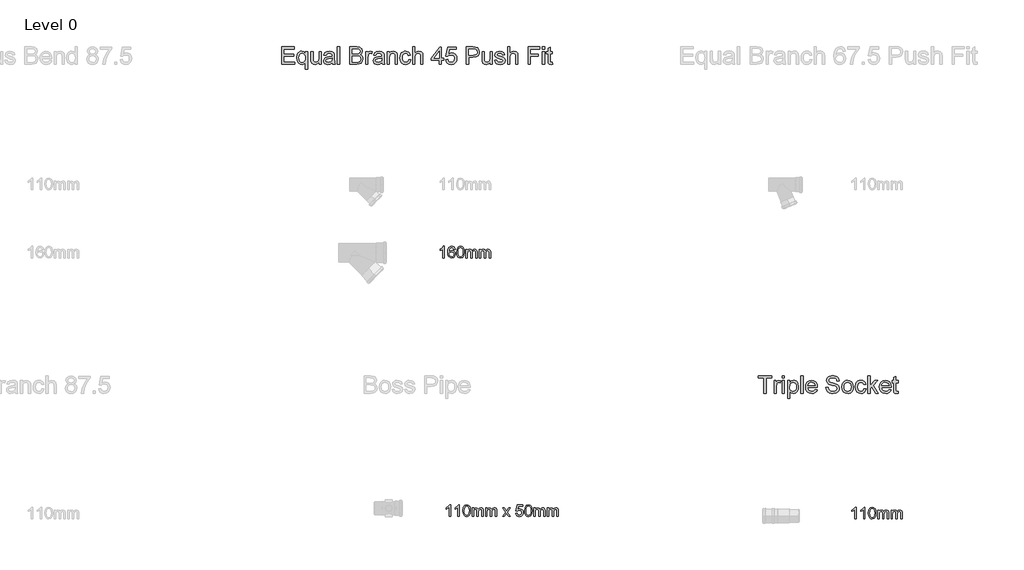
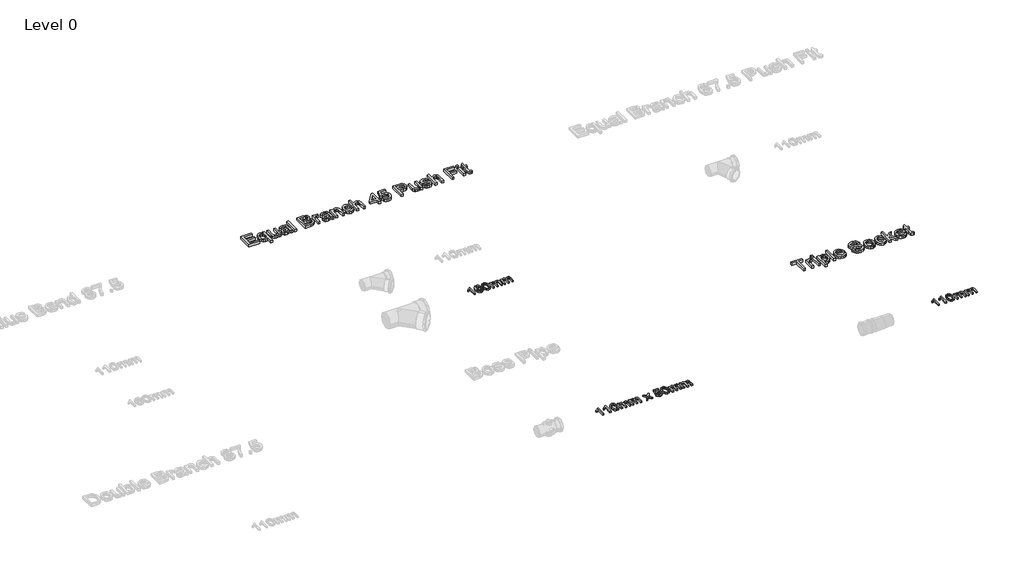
# One storey, part 14 of 15: 5 proxies.
"""IFC4 building model written with IfcOpenShell, lengths in millimetres."""

from ifc_helpers import new_model, si_unit, origin, origin_with_axes, place, context, project, spatial, polyline, outline, extrude, element, save

model = new_model("IFC4")

# Units and contexts
model_context = context("Model", 3, world=origin())
ifc_project = project(units=[si_unit("LENGTHUNIT", "METRE", prefix="MILLI")], contexts=[model_context])

# Site, building, storey
site = spatial("IfcSite", under=ifc_project)
building = spatial("IfcBuilding", under=site)
storey = spatial("IfcBuildingStorey", under=building, Name="Level 0", Elevation=0.0)

# Proxies
placement = place(None, origin())
element("IfcBuildingElementProxy", 1, Name="100mm Arial", ObjectType="100mm Arial", at=placement, inside=storey, context=model_context, shape_type="SweptSolid", body=[
    extrude(outline(polyline([(260.9629889, 5457.7167304), (248.6552966, 5457.7167304), (248.6552966, 5534.4474996), (236.9966428, 5526.1422111), (224.039912, 5519.9282688), (224.039912, 5531.5628842), (242.0807774, 5543.0773073), (253.0302966, 5556.1782688), (260.9629889, 5556.1782688), (260.9629889, 5457.7167304)])), origin_with_axes(), (0.0, 0.0, 1.0), 15.0),
    extrude(outline(polyline([(336.3476043, 5457.7167304), (324.039912, 5457.7167304), (324.039912, 5534.4474996), (312.3812582, 5526.1422111), (299.4245274, 5519.9282688), (299.4245274, 5531.5628842), (317.4653928, 5543.0773073), (328.414912, 5556.1782688), (336.3476043, 5556.1782688), (336.3476043, 5457.7167304)])), origin_with_axes(), (0.0, 0.0, 1.0), 15.0),
    extrude(outline(polyline([(365.5783736, 5506.1542304), (369.196162, 5534.4835573), (379.9413543, 5550.8176919), (397.8860659, 5556.1782688), (412.2610659, 5553.0051919), (422.1889505, 5543.8585573), (427.9581812, 5529.2912496), (430.1937582, 5506.1542304), (426.6120274, 5477.9450958), (415.9028928, 5461.5749035), (397.8860659, 5456.1782688), (385.0976043, 5458.5220188), (375.3860659, 5465.5532688), (368.0302966, 5482.2059131), (365.5783736, 5506.1542304)]), holes=[polyline([(377.8860659, 5506.1782688), (379.3283736, 5486.8182929), (383.6552966, 5475.613365), (390.0976043, 5470.2678121), (397.8860659, 5468.4859611), (405.6745274, 5470.2738217), (412.1168351, 5475.6374035), (416.4437582, 5486.848341), (417.8860659, 5506.1782688), (416.4918351, 5525.1025477), (412.3091428, 5536.394615), (405.8788543, 5542.0015861), (397.7418351, 5543.8705765), (390.0375082, 5542.2239419), (383.8476043, 5537.2840381), (379.3764505, 5525.2888458), (377.8860659, 5506.1782688)])]), origin_with_axes(), (0.0, 0.0, 1.0), 15.0),
    extrude(outline(polyline([(444.039912, 5457.7167304), (444.039912, 5530.0244227), (456.3476043, 5530.0244227), (456.3476043, 5518.1253842), (464.8091428, 5527.8729804), (476.852412, 5531.5628842), (489.1841428, 5527.800865), (495.9629889, 5517.2599996), (505.5663543, 5527.9871631), (517.6937582, 5531.5628842), (526.9455611, 5530.0755044), (533.7875082, 5525.613365), (538.0152726, 5518.0562736), (539.4245274, 5507.2840381), (539.4245274, 5457.7167304), (527.1168351, 5457.7167304), (527.1168351, 5501.9955765), (525.9750082, 5512.2720188), (521.8403928, 5517.332115), (514.8091428, 5519.2551919), (502.7057774, 5514.3273073), (497.8860659, 5498.5340381), (497.8860659, 5457.7167304), (485.5783736, 5457.7167304), (485.5783736, 5503.3657688), (482.7298159, 5515.2888458), (473.3908736, 5519.2551919), (464.2802966, 5516.6109611), (458.2226043, 5508.8705765), (456.3476043, 5494.1830765), (456.3476043, 5457.7167304), (444.039912, 5457.7167304)])), origin_with_axes(), (0.0, 0.0, 1.0), 15.0),
    extrude(outline(polyline([(557.8860659, 5457.7167304), (557.8860659, 5530.0244227), (570.1937582, 5530.0244227), (570.1937582, 5518.1253842), (578.6552966, 5527.8729804), (590.6985659, 5531.5628842), (603.0302966, 5527.800865), (609.8091428, 5517.2599996), (619.4125082, 5527.9871631), (631.539912, 5531.5628842), (640.7917149, 5530.0755044), (647.633662, 5525.613365), (651.8614264, 5518.0562736), (653.2706812, 5507.2840381), (653.2706812, 5457.7167304), (640.9629889, 5457.7167304), (640.9629889, 5501.9955765), (639.821162, 5512.2720188), (635.6865466, 5517.332115), (628.6552966, 5519.2551919), (616.5519312, 5514.3273073), (611.7322197, 5498.5340381), (611.7322197, 5457.7167304), (599.4245274, 5457.7167304), (599.4245274, 5503.3657688), (596.5759697, 5515.2888458), (587.2370274, 5519.2551919), (578.1264505, 5516.6109611), (572.0687582, 5508.8705765), (570.1937582, 5494.1830765), (570.1937582, 5457.7167304), (557.8860659, 5457.7167304)])), origin_with_axes(), (0.0, 0.0, 1.0), 15.0),
    extrude(outline(polyline([(702.5014505, 5457.7167304), (728.7995274, 5494.0628842), (704.039912, 5530.0244227), (718.8476043, 5530.0244227), (730.7947197, 5512.7167304), (736.3716428, 5504.5436535), (741.2033736, 5511.2263458), (754.8091428, 5530.0244227), (769.6168351, 5530.0244227), (743.6072197, 5494.0628842), (768.6552966, 5457.7167304), (753.8476043, 5457.7167304), (738.7754889, 5479.5676919), (736.0110659, 5483.5580765), (717.3091428, 5457.7167304), (702.5014505, 5457.7167304)])), origin_with_axes(), (0.0, 0.0, 1.0), 15.0),
    extrude(outline(polyline([(814.8091428, 5483.8705765), (827.1168351, 5485.4090381), (833.3187582, 5472.7287496), (846.1793351, 5468.4859611), (855.0014505, 5469.9613217), (861.6120274, 5474.3874035), (865.7406332, 5481.253389), (867.1168351, 5490.0484611), (861.9605851, 5504.6638458), (855.4852245, 5508.6842785), (846.3716428, 5510.0244227), (835.5663543, 5507.8849996), (828.6552966, 5502.332115), (816.3476043, 5503.8705765), (827.1168351, 5554.6398073), (874.8091428, 5554.6398073), (874.8091428, 5542.332115), (837.0687582, 5542.332115), (831.8043351, 5515.2167304), (840.5964024, 5520.5532688), (849.8091428, 5522.332115), (861.3085418, 5520.1265861), (870.8548159, 5513.5099996), (877.2820995, 5503.425865), (879.4245274, 5490.8176919), (877.4954409, 5478.5099996), (871.7081812, 5467.9811535), (860.6264505, 5459.12899), (846.1312582, 5456.1782688), (834.0429168, 5458.0743025), (824.4125082, 5463.7624035), (817.8109457, 5472.581514), (814.8091428, 5483.8705765)])), origin_with_axes(), (0.0, 0.0, 1.0), 15.0),
    extrude(outline(polyline([(890.1937582, 5506.1542304), (893.8115466, 5534.4835573), (904.5567389, 5550.8176919), (922.5014505, 5556.1782688), (936.8764505, 5553.0051919), (946.8043351, 5543.8585573), (952.5735659, 5529.2912496), (954.8091428, 5506.1542304), (951.227412, 5477.9450958), (940.5182774, 5461.5749035), (922.5014505, 5456.1782688), (909.7129889, 5458.5220188), (900.0014505, 5465.5532688), (892.6456812, 5482.2059131), (890.1937582, 5506.1542304)]), holes=[polyline([(902.5014505, 5506.1782688), (903.9437582, 5486.8182929), (908.2706812, 5475.613365), (914.7129889, 5470.2678121), (922.5014505, 5468.4859611), (930.289912, 5470.2738217), (936.7322197, 5475.6374035), (941.0591428, 5486.848341), (942.5014505, 5506.1782688), (941.1072197, 5525.1025477), (936.9245274, 5536.394615), (930.4942389, 5542.0015861), (922.3572197, 5543.8705765), (914.6528928, 5542.2239419), (908.4629889, 5537.2840381), (903.9918351, 5525.2888458), (902.5014505, 5506.1782688)])]), origin_with_axes(), (0.0, 0.0, 1.0), 15.0),
    extrude(outline(polyline([(968.6552966, 5457.7167304), (968.6552966, 5530.0244227), (980.9629889, 5530.0244227), (980.9629889, 5518.1253842), (989.4245274, 5527.8729804), (1001.4677966, 5531.5628842), (1013.7995274, 5527.800865), (1020.5783736, 5517.2599996), (1030.1817389, 5527.9871631), (1042.3091428, 5531.5628842), (1051.5609457, 5530.0755044), (1058.4028928, 5525.613365), (1062.6306572, 5518.0562736), (1064.039912, 5507.2840381), (1064.039912, 5457.7167304), (1051.7322197, 5457.7167304), (1051.7322197, 5501.9955765), (1050.5903928, 5512.2720188), (1046.4557774, 5517.332115), (1039.4245274, 5519.2551919), (1027.321162, 5514.3273073), (1022.5014505, 5498.5340381), (1022.5014505, 5457.7167304), (1010.1937582, 5457.7167304), (1010.1937582, 5503.3657688), (1007.3452005, 5515.2888458), (998.0062582, 5519.2551919), (988.8956812, 5516.6109611), (982.8379889, 5508.8705765), (980.9629889, 5494.1830765), (980.9629889, 5457.7167304), (968.6552966, 5457.7167304)])), origin_with_axes(), (0.0, 0.0, 1.0), 15.0),
    extrude(outline(polyline([(1082.5014505, 5457.7167304), (1082.5014505, 5530.0244227), (1094.8091428, 5530.0244227), (1094.8091428, 5518.1253842), (1103.2706812, 5527.8729804), (1115.3139505, 5531.5628842), (1127.6456812, 5527.800865), (1134.4245274, 5517.2599996), (1144.0278928, 5527.9871631), (1156.1552966, 5531.5628842), (1165.4070995, 5530.0755044), (1172.2490466, 5525.613365), (1176.4768111, 5518.0562736), (1177.8860659, 5507.2840381), (1177.8860659, 5457.7167304), (1165.5783736, 5457.7167304), (1165.5783736, 5501.9955765), (1164.4365466, 5512.2720188), (1160.3019312, 5517.332115), (1153.2706812, 5519.2551919), (1141.1673159, 5514.3273073), (1136.3476043, 5498.5340381), (1136.3476043, 5457.7167304), (1124.039912, 5457.7167304), (1124.039912, 5503.3657688), (1121.1913543, 5515.2888458), (1111.852412, 5519.2551919), (1102.7418351, 5516.6109611), (1096.6841428, 5508.8705765), (1094.8091428, 5494.1830765), (1094.8091428, 5457.7167304), (1082.5014505, 5457.7167304)])), origin_with_axes(), (0.0, 0.0, 1.0), 15.0),
])
element("IfcBuildingElementProxy", 2, Name="100mm Arial", ObjectType="100mm Arial", at=placement, inside=storey, context=model_context, shape_type="SweptSolid", body=[
    extrude(outline(polyline([(208.2706812, 7657.7167304), (195.9629889, 7657.7167304), (195.9629889, 7734.4474996), (184.3043351, 7726.1422111), (171.3476043, 7719.9282688), (171.3476043, 7731.5628842), (189.3884697, 7743.0773073), (200.3379889, 7756.1782688), (208.2706812, 7756.1782688), (208.2706812, 7657.7167304)])), origin_with_axes(), (0.0, 0.0, 1.0), 15.0),
    extrude(outline(polyline([(300.5783736, 7730.0244227), (288.2706812, 7728.4859611), (283.6072197, 7738.7503842), (271.2754889, 7743.8705765), (260.1697197, 7740.8898073), (251.7682774, 7729.6999035), (248.2706812, 7707.7648073), (259.1240466, 7717.5845188), (272.5735659, 7720.7936535), (283.9437582, 7718.6001438), (293.4870274, 7712.019615), (299.9593832, 7701.9655285), (302.1168351, 7689.3513458), (298.0543351, 7672.3681727), (286.8764505, 7660.3489419), (270.7466428, 7656.1782688), (256.7833014, 7658.9426919), (245.6625082, 7667.2359611), (238.3878687, 7681.8753842), (235.9629889, 7703.6782688), (238.6552966, 7728.19149), (246.7322197, 7744.9523073), (257.7598639, 7753.3717785), (272.0447197, 7756.1782688), (282.8439986, 7754.44149), (291.4918351, 7749.2311535), (297.5495274, 7740.9559131), (300.5783736, 7730.0244227)]), holes=[polyline([(248.2706812, 7689.5436535), (251.1192389, 7678.8825958), (258.6913543, 7671.1422111), (269.7851043, 7668.4859611), (277.9070995, 7669.8621631), (284.2923159, 7673.9907688), (288.4299361, 7680.4811535), (289.8091428, 7688.9426919), (288.4479649, 7697.0646871), (284.3644312, 7703.2575958), (269.2802966, 7708.4859611), (254.3884697, 7703.2575958), (249.8001284, 7697.2149275), (248.2706812, 7689.5436535)])]), origin_with_axes(), (0.0, 0.0, 1.0), 15.0),
    extrude(outline(polyline([(312.8860659, 7706.1542304), (316.5038543, 7734.4835573), (327.2490466, 7750.8176919), (345.1937582, 7756.1782688), (359.5687582, 7753.0051919), (369.4966428, 7743.8585573), (375.2658736, 7729.2912496), (377.5014505, 7706.1542304), (373.9197197, 7677.9450958), (363.2105851, 7661.5749035), (345.1937582, 7656.1782688), (332.4052966, 7658.5220188), (322.6937582, 7665.5532688), (315.3379889, 7682.2059131), (312.8860659, 7706.1542304)]), holes=[polyline([(325.1937582, 7706.1782688), (326.6360659, 7686.8182929), (330.9629889, 7675.613365), (337.4052966, 7670.2678121), (345.1937582, 7668.4859611), (352.9822197, 7670.2738217), (359.4245274, 7675.6374035), (363.7514505, 7686.848341), (365.1937582, 7706.1782688), (363.7995274, 7725.1025477), (359.6168351, 7736.394615), (353.1865466, 7742.0015861), (345.0495274, 7743.8705765), (337.3452005, 7742.2239419), (331.1552966, 7737.2840381), (326.6841428, 7725.2888458), (325.1937582, 7706.1782688)])]), origin_with_axes(), (0.0, 0.0, 1.0), 15.0),
    extrude(outline(polyline([(391.3476043, 7657.7167304), (391.3476043, 7730.0244227), (403.6552966, 7730.0244227), (403.6552966, 7718.1253842), (412.1168351, 7727.8729804), (424.1601043, 7731.5628842), (436.4918351, 7727.800865), (443.2706812, 7717.2599996), (452.8740466, 7727.9871631), (465.0014505, 7731.5628842), (474.2532534, 7730.0755044), (481.0952005, 7725.613365), (485.3229649, 7718.0562736), (486.7322197, 7707.2840381), (486.7322197, 7657.7167304), (474.4245274, 7657.7167304), (474.4245274, 7701.9955765), (473.2827005, 7712.2720188), (469.1480851, 7717.332115), (462.1168351, 7719.2551919), (450.0134697, 7714.3273073), (445.1937582, 7698.5340381), (445.1937582, 7657.7167304), (432.8860659, 7657.7167304), (432.8860659, 7703.3657688), (430.0375082, 7715.2888458), (420.6985659, 7719.2551919), (411.5879889, 7716.6109611), (405.5302966, 7708.8705765), (403.6552966, 7694.1830765), (403.6552966, 7657.7167304), (391.3476043, 7657.7167304)])), origin_with_axes(), (0.0, 0.0, 1.0), 15.0),
    extrude(outline(polyline([(505.1937582, 7657.7167304), (505.1937582, 7730.0244227), (517.5014505, 7730.0244227), (517.5014505, 7718.1253842), (525.9629889, 7727.8729804), (538.0062582, 7731.5628842), (550.3379889, 7727.800865), (557.1168351, 7717.2599996), (566.7202005, 7727.9871631), (578.8476043, 7731.5628842), (588.0994072, 7730.0755044), (594.9413543, 7725.613365), (599.1691187, 7718.0562736), (600.5783736, 7707.2840381), (600.5783736, 7657.7167304), (588.2706812, 7657.7167304), (588.2706812, 7701.9955765), (587.1288543, 7712.2720188), (582.9942389, 7717.332115), (575.9629889, 7719.2551919), (563.8596236, 7714.3273073), (559.039912, 7698.5340381), (559.039912, 7657.7167304), (546.7322197, 7657.7167304), (546.7322197, 7703.3657688), (543.883662, 7715.2888458), (534.5447197, 7719.2551919), (525.4341428, 7716.6109611), (519.3764505, 7708.8705765), (517.5014505, 7694.1830765), (517.5014505, 7657.7167304), (505.1937582, 7657.7167304)])), origin_with_axes(), (0.0, 0.0, 1.0), 15.0),
])
element("IfcBuildingElementProxy", 3, Name="100mm Arial", ObjectType="100mm Arial", at=placement, inside=storey, context=model_context, shape_type="SweptSolid", body=[
    extrude(outline(polyline([(3708.2706812, 5437.7167304), (3695.9629889, 5437.7167304), (3695.9629889, 5514.4474996), (3684.3043351, 5506.1422111), (3671.3476043, 5499.9282688), (3671.3476043, 5511.5628842), (3689.3884697, 5523.0773073), (3700.3379889, 5536.1782688), (3708.2706812, 5536.1782688), (3708.2706812, 5437.7167304)])), origin_with_axes(), (0.0, 0.0, 1.0), 15.0),
    extrude(outline(polyline([(3783.6552966, 5437.7167304), (3771.3476043, 5437.7167304), (3771.3476043, 5514.4474996), (3759.6889505, 5506.1422111), (3746.7322197, 5499.9282688), (3746.7322197, 5511.5628842), (3764.7730851, 5523.0773073), (3775.7226043, 5536.1782688), (3783.6552966, 5536.1782688), (3783.6552966, 5437.7167304)])), origin_with_axes(), (0.0, 0.0, 1.0), 15.0),
    extrude(outline(polyline([(3812.8860659, 5486.1542304), (3816.5038543, 5514.4835573), (3827.2490466, 5530.8176919), (3845.1937582, 5536.1782688), (3859.5687582, 5533.0051919), (3869.4966428, 5523.8585573), (3875.2658736, 5509.2912496), (3877.5014505, 5486.1542304), (3873.9197197, 5457.9450958), (3863.2105851, 5441.5749035), (3845.1937582, 5436.1782688), (3832.4052966, 5438.5220188), (3822.6937582, 5445.5532688), (3815.3379889, 5462.2059131), (3812.8860659, 5486.1542304)]), holes=[polyline([(3825.1937582, 5486.1782688), (3826.6360659, 5466.8182929), (3830.9629889, 5455.613365), (3837.4052966, 5450.2678121), (3845.1937582, 5448.4859611), (3852.9822197, 5450.2738217), (3859.4245274, 5455.6374035), (3863.7514505, 5466.848341), (3865.1937582, 5486.1782688), (3863.7995274, 5505.1025477), (3859.6168351, 5516.394615), (3853.1865466, 5522.0015861), (3845.0495274, 5523.8705765), (3837.3452005, 5522.2239419), (3831.1552966, 5517.2840381), (3826.6841428, 5505.2888458), (3825.1937582, 5486.1782688)])]), origin_with_axes(), (0.0, 0.0, 1.0), 15.0),
    extrude(outline(polyline([(3891.3476043, 5437.7167304), (3891.3476043, 5510.0244227), (3903.6552966, 5510.0244227), (3903.6552966, 5498.1253842), (3912.1168351, 5507.8729804), (3924.1601043, 5511.5628842), (3936.4918351, 5507.800865), (3943.2706812, 5497.2599996), (3952.8740466, 5507.9871631), (3965.0014505, 5511.5628842), (3974.2532534, 5510.0755044), (3981.0952005, 5505.613365), (3985.3229649, 5498.0562736), (3986.7322197, 5487.2840381), (3986.7322197, 5437.7167304), (3974.4245274, 5437.7167304), (3974.4245274, 5481.9955765), (3973.2827005, 5492.2720188), (3969.1480851, 5497.332115), (3962.1168351, 5499.2551919), (3950.0134697, 5494.3273073), (3945.1937582, 5478.5340381), (3945.1937582, 5437.7167304), (3932.8860659, 5437.7167304), (3932.8860659, 5483.3657688), (3930.0375082, 5495.2888458), (3920.6985659, 5499.2551919), (3911.5879889, 5496.6109611), (3905.5302966, 5488.8705765), (3903.6552966, 5474.1830765), (3903.6552966, 5437.7167304), (3891.3476043, 5437.7167304)])), origin_with_axes(), (0.0, 0.0, 1.0), 15.0),
    extrude(outline(polyline([(4005.1937582, 5437.7167304), (4005.1937582, 5510.0244227), (4017.5014505, 5510.0244227), (4017.5014505, 5498.1253842), (4025.9629889, 5507.8729804), (4038.0062582, 5511.5628842), (4050.3379889, 5507.800865), (4057.1168351, 5497.2599996), (4066.7202005, 5507.9871631), (4078.8476043, 5511.5628842), (4088.0994072, 5510.0755044), (4094.9413543, 5505.613365), (4099.1691187, 5498.0562736), (4100.5783736, 5487.2840381), (4100.5783736, 5437.7167304), (4088.2706812, 5437.7167304), (4088.2706812, 5481.9955765), (4087.1288543, 5492.2720188), (4082.9942389, 5497.332115), (4075.9629889, 5499.2551919), (4063.8596236, 5494.3273073), (4059.039912, 5478.5340381), (4059.039912, 5437.7167304), (4046.7322197, 5437.7167304), (4046.7322197, 5483.3657688), (4043.883662, 5495.2888458), (4034.5447197, 5499.2551919), (4025.4341428, 5496.6109611), (4019.3764505, 5488.8705765), (4017.5014505, 5474.1830765), (4017.5014505, 5437.7167304), (4005.1937582, 5437.7167304)])), origin_with_axes(), (0.0, 0.0, 1.0), 15.0),
])
element("IfcBuildingElementProxy", 4, Name="150mm Arial", ObjectType="150mm Arial", at=placement, inside=storey, context=model_context, shape_type="SweptSolid", body=[
    extrude(outline(polyline([(-1173.6818358, 9305.2145219), (-1173.6818358, 9452.9068296), (-1067.5279897, 9452.9068296), (-1067.5279897, 9434.4452911), (-1155.2202973, 9434.4452911), (-1155.2202973, 9390.5991373), (-1072.1433743, 9390.5991373), (-1072.1433743, 9372.1375988), (-1155.2202973, 9372.1375988), (-1155.2202973, 9323.6760604), (-1065.2202973, 9323.6760604), (-1065.2202973, 9305.2145219), (-1173.6818358, 9305.2145219)])), origin_with_axes(), (0.0, 0.0, 1.0), 25.0),
    extrude(outline(polyline([(-972.912605, 9263.6760604), (-972.912605, 9319.9981758), (-984.631355, 9307.7746181), (-1000.6409704, 9302.9068296), (-1018.1920522, 9306.7514811), (-1033.1289512, 9318.2854354), (-1043.351307, 9336.5171061), (-1046.7587589, 9360.4549065), (-1041.350105, 9389.697695), (-1034.7245041, 9401.0738969), (-1025.6650089, 9409.3130796), (-1014.8927733, 9414.3160844), (-1003.1289512, 9415.9837527), (-985.9654897, 9410.8094738), (-972.912605, 9395.2866373), (-972.912605, 9413.6760604), (-954.4510666, 9413.6760604), (-954.4510666, 9263.6760604), (-972.912605, 9263.6760604)]), holes=[polyline([(-1028.2972204, 9359.4452911), (-1026.2193959, 9342.7866373), (-1019.9859223, 9330.8875988), (-1010.8498046, 9323.7481758), (-1000.0640473, 9321.3683681), (-989.7290113, 9323.6309883), (-980.9354416, 9330.4188488), (-974.9183142, 9341.8311085), (-972.912605, 9357.9669258), (-975.0264872, 9375.2160243), (-981.3681339, 9387.58832), (-990.5583382, 9395.0387407), (-1001.2178935, 9397.5222142), (-1011.6791315, 9395.2100147), (-1020.4186147, 9388.2734161), (-1026.327569, 9376.4419859), (-1028.2972204, 9359.4452911)])]), origin_with_axes(), (0.0, 0.0, 1.0), 25.0),
    extrude(outline(polyline([(-857.5279897, 9305.2145219), (-857.5279897, 9323.8563488), (-871.9871243, 9308.1442094), (-890.8452973, 9302.9068296), (-908.2070762, 9306.5847142), (-920.17823, 9315.8154835), (-925.6770281, 9329.4092335), (-926.7587589, 9346.572695), (-926.7587589, 9413.6760604), (-908.2972204, 9413.6760604), (-908.2972204, 9355.2625988), (-907.179432, 9336.4404835), (-899.8777493, 9325.3888008), (-886.1217397, 9321.3683681), (-870.7070762, 9325.478945), (-860.5207781, 9336.6748585), (-857.5279897, 9357.2457719), (-857.5279897, 9413.6760604), (-839.0664512, 9413.6760604), (-839.0664512, 9305.2145219), (-857.5279897, 9305.2145219)])), origin_with_axes(), (0.0, 0.0, 1.0), 25.0),
    extrude(outline(polyline([(-744.4510666, 9319.0606758), (-762.3537108, 9306.5486565), (-782.131355, 9302.9068296), (-797.5595401, 9305.0973344), (-808.9402493, 9311.6688488), (-815.9579776, 9321.6478152), (-818.2972204, 9334.0606758), (-814.7635666, 9348.6640411), (-805.4787108, 9359.2650027), (-792.5520281, 9365.322695), (-776.5784704, 9368.0991373), (-744.5592397, 9374.4452911), (-744.4510666, 9378.5558681), (-745.7221002, 9386.7950508), (-749.5352012, 9392.1856758), (-758.0628454, 9396.1880796), (-769.943855, 9397.5222142), (-788.6217397, 9393.9705315), (-797.5279897, 9381.3683681), (-815.9895281, 9383.6760604), (-808.0027493, 9401.7049065), (-791.9210185, 9412.2698104), (-767.5640473, 9415.9837527), (-745.1902493, 9412.7025027), (-732.5520281, 9404.46332), (-726.8909704, 9391.9332719), (-725.9895281, 9375.7794258), (-725.9895281, 9352.8106758), (-725.0520281, 9320.7373585), (-721.3741435, 9305.2145219), (-739.835682, 9305.2145219), (-744.4510666, 9319.0606758)]), holes=[polyline([(-744.4510666, 9355.9837527), (-774.2347204, 9350.322695), (-790.1181339, 9347.3299065), (-797.3116435, 9342.4621181), (-799.835682, 9335.3587527), (-794.3368839, 9325.3707719), (-778.2010666, 9321.3683681), (-759.523182, 9325.7854354), (-747.4799127, 9336.4765411), (-744.5592397, 9350.7553873), (-744.4510666, 9355.9837527)])]), origin_with_axes(), (0.0, 0.0, 1.0), 25.0),
    extrude(outline(polyline([(-700.6049127, 9305.2145219), (-700.6049127, 9452.9068296), (-682.1433743, 9452.9068296), (-682.1433743, 9305.2145219), (-700.6049127, 9305.2145219)])), origin_with_axes(), (0.0, 0.0, 1.0), 25.0),
    extrude(outline(polyline([(-594.4510666, 9305.2145219), (-594.4510666, 9452.9068296), (-538.0928935, 9452.9068296), (-510.49073, 9448.5618777), (-501.2148887, 9443.049558), (-494.1926531, 9435.2025027), (-488.2972204, 9416.3082719), (-493.2551531, 9399.0546661), (-508.2371243, 9385.9837527), (-497.7758863, 9380.5210123), (-490.0460185, 9372.2097142), (-485.2728815, 9361.5997383), (-483.6818358, 9349.2409642), (-488.0267877, 9329.3912046), (-498.7900089, 9315.2565892), (-514.8537108, 9307.7565892), (-538.5255858, 9305.2145219), (-594.4510666, 9305.2145219)]), holes=[polyline([(-575.9895281, 9323.6760604), (-538.1289512, 9323.6760604), (-524.4270281, 9324.3972142), (-512.83448, 9328.4176469), (-505.1541916, 9336.6207719), (-502.1433743, 9349.0606758), (-505.6770281, 9363.4116373), (-517.1253454, 9371.9753392), (-539.9318358, 9374.4452911), (-575.9895281, 9374.4452911), (-575.9895281, 9323.6760604)]), polyline([(-575.9895281, 9392.9068296), (-542.2755858, 9392.9068296), (-522.5880858, 9394.4933681), (-510.7431339, 9401.3263008), (-506.7587589, 9413.3515411), (-510.4727012, 9425.3948104), (-521.1097204, 9432.5162046), (-544.835682, 9434.4452911), (-575.9895281, 9434.4452911), (-575.9895281, 9392.9068296)])]), origin_with_axes(), (0.0, 0.0, 1.0), 25.0),
    extrude(outline(polyline([(-460.6049127, 9305.2145219), (-460.6049127, 9413.6760604), (-444.4510666, 9413.6760604), (-444.4510666, 9397.6303873), (-432.9847204, 9412.4140411), (-421.4462589, 9415.9837527), (-402.912605, 9410.2866373), (-409.0784704, 9393.7361565), (-422.0592397, 9397.5222142), (-432.4979416, 9393.8803873), (-439.1505858, 9383.7842335), (-442.1433743, 9362.2217335), (-442.1433743, 9305.2145219), (-460.6049127, 9305.2145219)])), origin_with_axes(), (0.0, 0.0, 1.0), 25.0),
    extrude(outline(polyline([(-322.1433743, 9319.0606758), (-340.0460185, 9306.5486565), (-359.8236627, 9302.9068296), (-375.2518478, 9305.0973344), (-386.632557, 9311.6688488), (-393.6502853, 9321.6478152), (-395.9895281, 9334.0606758), (-392.4558743, 9348.6640411), (-383.1710185, 9359.2650027), (-370.2443358, 9365.322695), (-354.2707781, 9368.0991373), (-322.2515473, 9374.4452911), (-322.1433743, 9378.5558681), (-323.4144079, 9386.7950508), (-327.2275089, 9392.1856758), (-335.7551531, 9396.1880796), (-347.6361627, 9397.5222142), (-366.3140473, 9393.9705315), (-375.2202973, 9381.3683681), (-393.6818358, 9383.6760604), (-385.695057, 9401.7049065), (-369.6133262, 9412.2698104), (-345.256355, 9415.9837527), (-322.882557, 9412.7025027), (-310.2443358, 9404.46332), (-304.5832781, 9391.9332719), (-303.6818358, 9375.7794258), (-303.6818358, 9352.8106758), (-302.7443358, 9320.7373585), (-299.0664512, 9305.2145219), (-317.5279897, 9305.2145219), (-322.1433743, 9319.0606758)]), holes=[polyline([(-322.1433743, 9355.9837527), (-351.9270281, 9350.322695), (-367.8104416, 9347.3299065), (-375.0039512, 9342.4621181), (-377.5279897, 9335.3587527), (-372.0291916, 9325.3707719), (-355.8933743, 9321.3683681), (-337.2154897, 9325.7854354), (-325.1722204, 9336.4765411), (-322.2515473, 9350.7553873), (-322.1433743, 9355.9837527)])]), origin_with_axes(), (0.0, 0.0, 1.0), 25.0),
    extrude(outline(polyline([(-278.2972204, 9305.2145219), (-278.2972204, 9413.6760604), (-259.835682, 9413.6760604), (-259.835682, 9398.5318296), (-245.7190954, 9411.6207719), (-226.4462589, 9415.9837527), (-209.0123647, 9412.4681277), (-197.1133262, 9403.2373585), (-191.5784704, 9389.6616373), (-190.6049127, 9371.8130796), (-190.6049127, 9305.2145219), (-209.0664512, 9305.2145219), (-209.0664512, 9369.3250988), (-211.193855, 9385.6592335), (-218.7118839, 9394.2950508), (-231.3861627, 9397.5222142), (-242.1989632, 9395.7103152), (-251.4162108, 9390.2746181), (-257.7308142, 9379.7728152), (-259.835682, 9362.7625988), (-259.835682, 9305.2145219), (-278.2972204, 9305.2145219)])), origin_with_axes(), (0.0, 0.0, 1.0), 25.0),
    extrude(outline(polyline([(-95.9895281, 9344.4452911), (-77.5279897, 9342.1375988), (-82.6752252, 9325.7178272), (-92.3477012, 9313.3094738), (-105.6349608, 9305.5074907), (-121.6265473, 9302.9068296), (-141.264468, 9306.5351349), (-156.6205377, 9317.4200508), (-166.5318959, 9335.0838128), (-169.835682, 9359.0486565), (-164.1926531, 9389.7157238), (-157.0712589, 9401.2136205), (-146.9931339, 9409.4212527), (-134.936343, 9414.3431277), (-121.8789512, 9415.9837527), (-106.2794921, 9413.7301469), (-93.8080377, 9406.9693296), (-84.8612228, 9396.0618777), (-79.835682, 9381.3683681), (-98.2972204, 9379.0606758), (-106.8609223, 9392.8888008), (-121.7347204, 9397.5222142), (-133.6653094, 9395.2415652), (-143.1349608, 9388.3996181), (-149.3143478, 9376.6267815), (-151.3741435, 9359.5534642), (-149.3594199, 9342.2502791), (-143.3152493, 9330.4368777), (-134.0168719, 9323.6354955), (-122.2395281, 9321.3683681), (-112.6797324, 9322.7836325), (-104.8416916, 9327.0294258), (-99.140069, 9334.213921), (-95.9895281, 9344.4452911)])), origin_with_axes(), (0.0, 0.0, 1.0), 25.0),
    extrude(outline(polyline([(-61.3741435, 9305.2145219), (-61.3741435, 9452.9068296), (-42.912605, 9452.9068296), (-42.912605, 9398.603945), (-28.5165714, 9411.6388008), (-10.7852012, 9415.9837527), (9.9479719, 9411.2421661), (22.5321065, 9398.135195), (26.3181642, 9373.8683681), (26.3181642, 9305.2145219), (7.8566257, 9305.2145219), (7.8566257, 9371.9573104), (6.3872748, 9383.5138008), (1.9792219, 9391.4284642), (-5.1241435, 9395.9987767), (-14.679432, 9397.5222142), (-29.8056339, 9393.4116373), (-39.9017877, 9382.2698104), (-42.912605, 9362.8347142), (-42.912605, 9305.2145219), (-61.3741435, 9305.2145219)])), origin_with_axes(), (0.0, 0.0, 1.0), 25.0),
    extrude(outline(polyline([(164.7797027, 9305.2145219), (164.7797027, 9339.8299065), (97.8566257, 9339.8299065), (97.8566257, 9358.291445), (169.3950873, 9450.5991373), (183.2412411, 9450.5991373), (183.2412411, 9358.291445), (201.7027796, 9358.291445), (201.7027796, 9339.8299065), (183.2412411, 9339.8299065), (183.2412411, 9305.2145219), (164.7797027, 9305.2145219)]), holes=[polyline([(164.7797027, 9358.291445), (164.7797027, 9415.3347142), (120.5729719, 9358.291445), (164.7797027, 9358.291445)])]), origin_with_axes(), (0.0, 0.0, 1.0), 25.0),
    extrude(outline(polyline([(217.8566257, 9344.4452911), (236.3181642, 9346.7529835), (239.7075873, 9335.6697503), (245.6210488, 9327.7325508), (254.0315055, 9322.9594137), (264.9119142, 9321.3683681), (278.1450873, 9323.5814089), (288.0609527, 9330.2205315), (294.2538613, 9340.5195099), (296.3181642, 9353.7121181), (294.3845704, 9366.1339931), (288.5837892, 9375.635195), (278.8707483, 9381.665844), (265.2003757, 9383.6760604), (248.992443, 9380.4669258), (238.6258565, 9372.1375988), (220.164318, 9374.4452911), (236.3181642, 9450.5991373), (307.8566257, 9450.5991373), (307.8566257, 9432.1375988), (251.2460488, 9432.1375988), (243.3494142, 9391.4645219), (256.5375152, 9399.4693296), (270.3566257, 9402.1375988), (287.6057243, 9398.8293056), (301.9251353, 9388.9044258), (311.5660608, 9373.7782238), (314.7797027, 9354.8659642), (311.8860728, 9336.4044258), (303.2051834, 9320.6111565), (286.5825873, 9307.3329113), (264.8397988, 9302.9068296), (246.7072868, 9305.7508801), (232.2616738, 9314.2830315), (222.3593301, 9327.5116974), (217.8566257, 9344.4452911)])), origin_with_axes(), (0.0, 0.0, 1.0), 25.0),
    extrude(outline(polyline([(395.5489334, 9305.2145219), (395.5489334, 9452.9068296), (450.2845103, 9452.9068296), (472.351818, 9451.5005796), (490.29052, 9444.5955315), (501.9191257, 9430.3166854), (506.3181642, 9410.1784642), (503.3479118, 9392.7716133), (494.4371546, 9378.2674065), (477.7739935, 9368.4777431), (451.5465296, 9365.2145219), (414.0104719, 9365.2145219), (414.0104719, 9305.2145219), (395.5489334, 9305.2145219)]), holes=[polyline([(414.0104719, 9383.6760604), (452.6282603, 9383.6760604), (468.9984527, 9385.3707719), (479.8157603, 9390.4549065), (485.8464094, 9398.6129594), (487.8566257, 9409.5294258), (483.1150392, 9424.8178873), (470.6571065, 9433.1832719), (452.195568, 9434.4452911), (414.0104719, 9434.4452911), (414.0104719, 9383.6760604)])]), origin_with_axes(), (0.0, 0.0, 1.0), 25.0),
    extrude(outline(polyline([(598.6258565, 9305.2145219), (598.6258565, 9323.8563488), (584.1667219, 9308.1442094), (565.3085488, 9302.9068296), (547.94677, 9306.5847142), (535.9756161, 9315.8154835), (530.476818, 9329.4092335), (529.3950873, 9346.572695), (529.3950873, 9413.6760604), (547.8566257, 9413.6760604), (547.8566257, 9355.2625988), (548.9744142, 9336.4404835), (556.2760969, 9325.3888008), (570.0321065, 9321.3683681), (585.44677, 9325.478945), (595.633068, 9336.6748585), (598.6258565, 9357.2457719), (598.6258565, 9413.6760604), (617.087395, 9413.6760604), (617.087395, 9305.2145219), (598.6258565, 9305.2145219)])), origin_with_axes(), (0.0, 0.0, 1.0), 25.0),
    extrude(outline(polyline([(635.5489334, 9337.5222142), (654.0104719, 9339.8299065), (656.9221305, 9331.9332719), (662.556145, 9326.1279835), (682.1354719, 9321.3683681), (700.9575873, 9325.7313488), (707.087395, 9335.9717335), (700.9215296, 9344.2650027), (681.9191257, 9349.5294258), (654.118645, 9358.5618777), (641.9852315, 9369.1087527), (637.8566257, 9384.0005796), (641.1739334, 9397.7565892), (650.2244142, 9408.2674065), (661.961193, 9413.7301469), (677.8446065, 9415.9837527), (700.3085488, 9412.3599546), (714.587395, 9402.5522623), (720.9335488, 9385.9837527), (702.4720103, 9383.6760604), (695.5309046, 9393.8623585), (679.2869142, 9397.5222142), (661.618645, 9394.0246181), (656.3181642, 9385.8755796), (658.5176834, 9380.5029835), (665.4047027, 9376.4284642), (681.306145, 9372.4981758), (708.4035007, 9363.8082719), (720.9876353, 9353.9645219), (725.5489334, 9337.9188488), (720.1943661, 9320.2505796), (704.743645, 9307.43207), (681.883068, 9302.9068296), (663.2682844, 9305.08832), (649.6835488, 9311.6327911), (640.6150392, 9322.4681277), (635.5489334, 9337.5222142)])), origin_with_axes(), (0.0, 0.0, 1.0), 25.0),
    extrude(outline(polyline([(746.3181642, 9305.2145219), (746.3181642, 9452.9068296), (764.7797027, 9452.9068296), (764.7797027, 9398.603945), (779.1757363, 9411.6388008), (796.9071065, 9415.9837527), (817.6402796, 9411.2421661), (830.2244142, 9398.135195), (834.0104719, 9373.8683681), (834.0104719, 9305.2145219), (815.5489334, 9305.2145219), (815.5489334, 9371.9573104), (814.0795825, 9383.5138008), (809.6715296, 9391.4284642), (802.5681642, 9395.9987767), (793.0128757, 9397.5222142), (777.8866738, 9393.4116373), (767.79052, 9382.2698104), (764.7797027, 9362.8347142), (764.7797027, 9305.2145219), (746.3181642, 9305.2145219)])), origin_with_axes(), (0.0, 0.0, 1.0), 25.0),
    extrude(outline(polyline([(919.3950873, 9305.2145219), (919.3950873, 9452.9068296), (1018.6258565, 9452.9068296), (1018.6258565, 9434.4452911), (937.8566257, 9434.4452911), (937.8566257, 9390.5991373), (1007.087395, 9390.5991373), (1007.087395, 9372.1375988), (937.8566257, 9372.1375988), (937.8566257, 9305.2145219), (919.3950873, 9305.2145219)])), origin_with_axes(), (0.0, 0.0, 1.0), 25.0),
    extrude(outline(polyline([(1041.7027796, 9434.4452911), (1041.7027796, 9452.9068296), (1060.164318, 9452.9068296), (1060.164318, 9434.4452911), (1041.7027796, 9434.4452911)])), origin_with_axes(), (0.0, 0.0, 1.0), 25.0),
    extrude(outline(polyline([(1041.7027796, 9305.2145219), (1041.7027796, 9413.6760604), (1060.164318, 9413.6760604), (1060.164318, 9305.2145219), (1041.7027796, 9305.2145219)])), origin_with_axes(), (0.0, 0.0, 1.0), 25.0),
    extrude(outline(polyline([(1127.087395, 9320.6111565), (1129.3950873, 9304.6736565), (1115.5849911, 9302.9068296), (1100.1162411, 9305.9717335), (1092.399895, 9314.0125988), (1090.164318, 9334.9621181), (1090.164318, 9395.2145219), (1076.3181642, 9395.2145219), (1076.3181642, 9413.6760604), (1090.164318, 9413.6760604), (1090.164318, 9440.0342335), (1108.6258565, 9450.8875988), (1108.6258565, 9413.6760604), (1127.087395, 9413.6760604), (1127.087395, 9395.2145219), (1108.6258565, 9395.2145219), (1108.6258565, 9335.5029835), (1109.5994142, 9325.9837527), (1112.7544623, 9322.6123585), (1119.0465296, 9321.3683681), (1127.087395, 9320.6111565)])), origin_with_axes(), (0.0, 0.0, 1.0), 25.0),
])
element("IfcBuildingElementProxy", 5, Name="150mm Arial", ObjectType="150mm Arial", at=placement, inside=storey, context=model_context, shape_type="SweptSolid", body=[
    extrude(outline(polyline([(2925.164318, 6505.2145219), (2925.164318, 6634.4452911), (2876.7027796, 6634.4452911), (2876.7027796, 6652.9068296), (2992.087395, 6652.9068296), (2992.087395, 6634.4452911), (2943.6258565, 6634.4452911), (2943.6258565, 6505.2145219), (2925.164318, 6505.2145219)])), origin_with_axes(), (0.0, 0.0, 1.0), 25.0),
    extrude(outline(polyline([(3010.5489334, 6505.2145219), (3010.5489334, 6613.6760604), (3026.7027796, 6613.6760604), (3026.7027796, 6597.6303873), (3038.1691257, 6612.4140411), (3049.7075873, 6615.9837527), (3068.2412411, 6610.2866373), (3062.0753757, 6593.7361565), (3049.0946065, 6597.5222142), (3038.6559046, 6593.8803873), (3032.0032603, 6583.7842335), (3029.0104719, 6562.2217335), (3029.0104719, 6505.2145219), (3010.5489334, 6505.2145219)])), origin_with_axes(), (0.0, 0.0, 1.0), 25.0),
    extrude(outline(polyline([(3079.7797027, 6505.2145219), (3079.7797027, 6613.6760604), (3098.2412411, 6613.6760604), (3098.2412411, 6505.2145219), (3079.7797027, 6505.2145219)])), origin_with_axes(), (0.0, 0.0, 1.0), 25.0),
    extrude(outline(polyline([(3079.7797027, 6634.4452911), (3079.7797027, 6652.9068296), (3098.2412411, 6652.9068296), (3098.2412411, 6634.4452911), (3079.7797027, 6634.4452911)])), origin_with_axes(), (0.0, 0.0, 1.0), 25.0),
    extrude(outline(polyline([(3125.9335488, 6463.6760604), (3125.9335488, 6613.6760604), (3144.3950873, 6613.6760604), (3144.3950873, 6595.5750988), (3157.1595103, 6610.8815892), (3174.3950873, 6615.9837527), (3186.8800632, 6614.1988969), (3197.7965296, 6608.8443296), (3206.6847507, 6600.24457), (3213.0849911, 6588.7241373), (3218.2412411, 6560.2746181), (3216.7854118, 6544.4858561), (3212.4179238, 6530.3647623), (3205.2785007, 6518.6279835), (3195.5068661, 6509.9921661), (3184.126157, 6504.6781637), (3172.1595103, 6502.9068296), (3156.0958084, 6507.6484161), (3144.3950873, 6519.6375988), (3144.3950873, 6463.6760604), (3125.9335488, 6463.6760604)]), holes=[polyline([(3144.3950873, 6558.5799065), (3146.391782, 6542.0294258), (3152.3818661, 6530.4549065), (3161.2205079, 6523.6400027), (3171.7628757, 6521.3683681), (3182.4765176, 6523.7211325), (3191.54052, 6530.7794258), (3197.719907, 6542.7776229), (3199.7797027, 6559.9500988), (3197.7694863, 6576.4104354), (3191.7388373, 6588.1472142), (3182.9137171, 6595.1784642), (3172.5200873, 6597.5222142), (3162.0858926, 6595.0297262), (3152.9227315, 6587.5522623), (3146.5269983, 6575.3241974), (3144.3950873, 6558.5799065)])]), origin_with_axes(), (0.0, 0.0, 1.0), 25.0),
    extrude(outline(polyline([(3239.0104719, 6505.2145219), (3239.0104719, 6652.9068296), (3257.4720103, 6652.9068296), (3257.4720103, 6505.2145219), (3239.0104719, 6505.2145219)])), origin_with_axes(), (0.0, 0.0, 1.0), 25.0),
    extrude(outline(polyline([(3361.101818, 6537.5222142), (3379.2027796, 6535.2145219), (3372.6808445, 6521.5756998), (3362.273693, 6511.3803873), (3348.2157003, 6505.025219), (3330.7412411, 6502.9068296), (3309.0795825, 6506.5621782), (3292.4119142, 6517.5282238), (3281.7839094, 6535.0928272), (3278.2412411, 6558.5438488), (3281.8199671, 6582.7836325), (3292.556145, 6600.9116373), (3308.9984527, 6612.2157238), (3329.695568, 6615.9837527), (3349.7481522, 6612.2247383), (3365.7712892, 6600.947695), (3376.2775993, 6582.8557479), (3379.7797027, 6558.6520219), (3379.6715296, 6553.6760604), (3296.7027796, 6553.6760604), (3299.8983926, 6539.8569498), (3307.32177, 6529.697695), (3318.0354118, 6523.4506998), (3331.101818, 6521.3683681), (3349.2027796, 6525.2265411), (3361.101818, 6537.5222142)]), holes=[polyline([(3296.7027796, 6572.1375988), (3361.3181642, 6572.1375988), (3358.821169, 6581.8912046), (3353.9263373, 6588.8683681), (3343.1631161, 6595.3587527), (3329.6234527, 6597.5222142), (3317.1790416, 6595.7959522), (3306.8890777, 6590.6171661), (3299.7361329, 6582.5447503), (3296.7027796, 6572.1375988)])]), origin_with_axes(), (0.0, 0.0, 1.0), 25.0),
    extrude(outline(polyline([(3451.3181642, 6555.9837527), (3469.7797027, 6555.9837527), (3475.7292219, 6537.5041854), (3490.2604719, 6525.8214931), (3512.399895, 6521.3683681), (3531.6907603, 6524.7397623), (3544.148693, 6534.0065892), (3548.2412411, 6546.3924065), (3545.1763373, 6557.9128392), (3532.6282603, 6566.2962527), (3505.7472507, 6573.3455315), (3476.8109527, 6582.4500988), (3461.1078277, 6596.1880796), (3455.9335488, 6614.541445), (3457.5336089, 6625.3542455), (3462.3337892, 6635.4368777), (3470.2078878, 6643.9825508), (3481.0297027, 6650.1844738), (3508.3974911, 6655.2145219), (3537.6042219, 6649.9500988), (3548.8001353, 6643.4506998), (3557.0753757, 6634.4813488), (3562.3127555, 6623.6009402), (3564.3950873, 6611.3683681), (3545.9335488, 6611.3683681), (3542.5441257, 6622.3839931), (3535.476818, 6630.3347142), (3524.4341498, 6635.1484161), (3509.118645, 6636.7529835), (3493.4425632, 6635.166445), (3482.6883565, 6630.4068296), (3476.4684046, 6623.4026229), (3474.3950873, 6615.0823104), (3475.8644382, 6607.9879594), (3480.2724911, 6602.2818296), (3510.4167219, 6591.9693296), (3543.0849911, 6582.7025027), (3553.6093301, 6576.0047863), (3560.9515777, 6567.7385604), (3566.7027796, 6546.8611565), (3565.0486329, 6535.4804474), (3560.086193, 6524.77582), (3552.0182844, 6515.5630796), (3541.0477315, 6508.6580315), (3513.1210488, 6502.9068296), (3495.0336089, 6504.4573104), (3480.1462892, 6509.1087527), (3468.2878156, 6516.8791854), (3459.2869142, 6527.7866373), (3453.508669, 6541.0738969), (3451.3181642, 6555.9837527)])), origin_with_axes(), (0.0, 0.0, 1.0), 25.0),
    extrude(outline(polyline([(3587.4720103, 6559.4452911), (3591.4653998, 6585.5961325), (3603.445568, 6603.9765411), (3618.2472507, 6612.9819498), (3635.9696065, 6615.9837527), (3655.3641378, 6612.3284041), (3670.8554238, 6601.3623585), (3681.0101714, 6583.9510003), (3684.3950873, 6560.9597142), (3682.898693, 6542.3088729), (3678.4095103, 6528.1111565), (3671.0582483, 6517.4786445), (3660.9756161, 6509.5234161), (3648.9999551, 6504.5609762), (3635.9696065, 6502.9068296), (3616.3407003, 6506.5486565), (3600.867443, 6517.4741373), (3590.8208685, 6535.2505796), (3587.4720103, 6559.4452911)]), holes=[polyline([(3605.9335488, 6559.4813488), (3608.0699671, 6542.7731157), (3614.4792219, 6530.86957), (3624.1246546, 6523.7436686), (3635.9696065, 6521.3683681), (3647.7604719, 6523.7571902), (3657.3878757, 6530.9236565), (3663.7971305, 6542.9849546), (3665.9335488, 6560.0582719), (3663.7836089, 6576.2797262), (3657.3337892, 6588.0210123), (3647.6928637, 6595.1469137), (3635.9696065, 6597.5222142), (3624.1246546, 6595.1559282), (3614.4792219, 6588.05707), (3608.0699671, 6576.1805676), (3605.9335488, 6559.4813488)])]), origin_with_axes(), (0.0, 0.0, 1.0), 25.0),
    extrude(outline(polyline([(3774.3950873, 6544.4452911), (3792.8566257, 6542.1375988), (3787.7093902, 6525.7178272), (3778.0369142, 6513.3094738), (3764.7496546, 6505.5074907), (3748.758068, 6502.9068296), (3729.1201474, 6506.5351349), (3713.7640777, 6517.4200508), (3703.8527195, 6535.0838128), (3700.5489334, 6559.0486565), (3706.1919623, 6589.7157238), (3713.3133565, 6601.2136205), (3723.3914815, 6609.4212527), (3735.4482724, 6614.3431277), (3748.5056642, 6615.9837527), (3764.1051233, 6613.7301469), (3776.5765777, 6606.9693296), (3785.5233926, 6596.0618777), (3790.5489334, 6581.3683681), (3772.087395, 6579.0606758), (3763.523693, 6592.8888008), (3748.649895, 6597.5222142), (3736.719306, 6595.2415652), (3727.2496546, 6588.3996181), (3721.0702676, 6576.6267815), (3719.0104719, 6559.5534642), (3721.0251954, 6542.2502791), (3727.0693661, 6530.4368777), (3736.3677435, 6523.6354955), (3748.1450873, 6521.3683681), (3757.7048829, 6522.7836325), (3765.5429238, 6527.0294258), (3771.2445464, 6534.213921), (3774.3950873, 6544.4452911)])), origin_with_axes(), (0.0, 0.0, 1.0), 25.0),
    extrude(outline(polyline([(3809.0104719, 6505.2145219), (3809.0104719, 6652.9068296), (3827.4720103, 6652.9068296), (3827.4720103, 6573.5438488), (3868.8662411, 6613.6760604), (3894.3950873, 6613.6760604), (3852.4960488, 6573.0390411), (3896.7027796, 6505.2145219), (3875.1402796, 6505.2145219), (3839.2628757, 6560.2025027), (3827.4720103, 6548.7722142), (3827.4720103, 6505.2145219), (3809.0104719, 6505.2145219)])), origin_with_axes(), (0.0, 0.0, 1.0), 25.0),
    extrude(outline(polyline([(3988.7941257, 6537.5222142), (4006.8950873, 6535.2145219), (4000.3731522, 6521.5756998), (3989.9660007, 6511.3803873), (3975.9080079, 6505.025219), (3958.4335488, 6502.9068296), (3936.7718902, 6506.5621782), (3920.1042219, 6517.5282238), (3909.4762171, 6535.0928272), (3905.9335488, 6558.5438488), (3909.5122748, 6582.7836325), (3920.2484527, 6600.9116373), (3936.6907603, 6612.2157238), (3957.3878757, 6615.9837527), (3977.4404599, 6612.2247383), (3993.4635969, 6600.947695), (4003.969907, 6582.8557479), (4007.4720103, 6558.6520219), (4007.3638373, 6553.6760604), (3924.3950873, 6553.6760604), (3927.5907003, 6539.8569498), (3935.0140777, 6529.697695), (3945.7277195, 6523.4506998), (3958.7941257, 6521.3683681), (3976.8950873, 6525.2265411), (3988.7941257, 6537.5222142)]), holes=[polyline([(3924.3950873, 6572.1375988), (3989.0104719, 6572.1375988), (3986.5134767, 6581.8912046), (3981.618645, 6588.8683681), (3970.8554238, 6595.3587527), (3957.3157603, 6597.5222142), (3944.8713493, 6595.7959522), (3934.5813853, 6590.6171661), (3927.4284406, 6582.5447503), (3924.3950873, 6572.1375988)])]), origin_with_axes(), (0.0, 0.0, 1.0), 25.0),
    extrude(outline(polyline([(4065.164318, 6520.6111565), (4067.4720103, 6504.6736565), (4053.6619142, 6502.9068296), (4038.1931642, 6505.9717335), (4030.476818, 6514.0125988), (4028.2412411, 6534.9621181), (4028.2412411, 6595.2145219), (4014.3950873, 6595.2145219), (4014.3950873, 6613.6760604), (4028.2412411, 6613.6760604), (4028.2412411, 6640.0342335), (4046.7027796, 6650.8875988), (4046.7027796, 6613.6760604), (4065.164318, 6613.6760604), (4065.164318, 6595.2145219), (4046.7027796, 6595.2145219), (4046.7027796, 6535.5029835), (4047.6763373, 6525.9837527), (4050.8313853, 6522.6123585), (4057.1234527, 6521.3683681), (4065.164318, 6520.6111565)])), origin_with_axes(), (0.0, 0.0, 1.0), 25.0),
])

save(model, "model.ifc")
